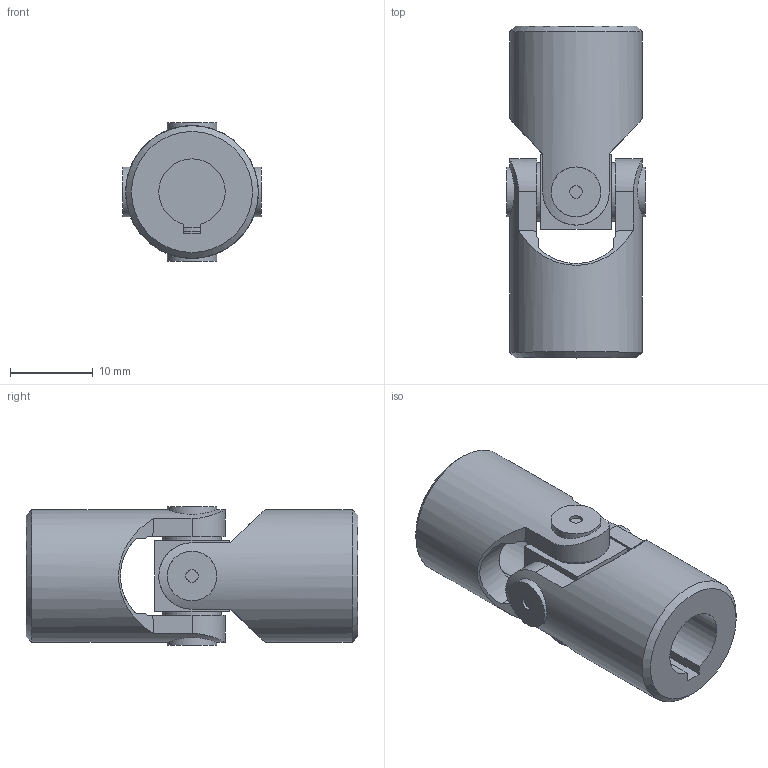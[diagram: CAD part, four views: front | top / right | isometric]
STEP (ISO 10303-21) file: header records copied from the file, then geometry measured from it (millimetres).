
FILE_DESCRIPTION(/* description */ ('EXTENSIBLE TRANSIMISSIONS Series G DIN 808 -2-'),/* implementation_level */ '2;1');
FILE_NAME(/* name */ '\\SRV2016\societa\Stefano\Disegni 3D\Dis. Clienti\0000Catalogo 3D\01Singoli G-GB\SG0S081C.stp',/* time_stamp */ '2021-11-08T14:10:56+01:00',/* author */ ('acquisti'),/* organization */ ('MARIOFERRI'),/* preprocessor_version */ 'ST-DEVELOPER v15.6',/* originating_system */ 'Autodesk Inventor 2015',/* authorisation */ '');
FILE_SCHEMA (('AUTOMOTIVE_DESIGN { 1 0 10303 214 3 1 1 }'));
Length unit declared in the file: millimetre
Products named in the file (4): 01-02G SFE; 02G MOS; 02G MOC; Assieme1
Assembly tree (3 placements, depth 2):
  Assieme1
    01-02G SFE
    02G MOS
    02G MOC
Bounding box: 16.7 x 40 x 16.7 mm (x, y, z)
Volume: 5454.8 mm3; surface area: 3844.5 mm2
Topology: 3 solids, 3 shells, 75 faces, 187 edges, 128 vertices
Faces by surface type: plane 39, cylinder 22, cone 12, torus 2
Full cylindrical faces by diameter (mm): 1.5 x4, 6 x4, 7 x4, 8 x1, 8.5 x1, 16 x2
Entity records: 2492 total; most frequent: CARTESIAN_POINT 825, DIRECTION 321, ORIENTED_EDGE 310, EDGE_CURVE 155, AXIS2_PLACEMENT_3D 138, VERTEX_POINT 117, EDGE_LOOP 110, FACE_OUTER_BOUND 75
